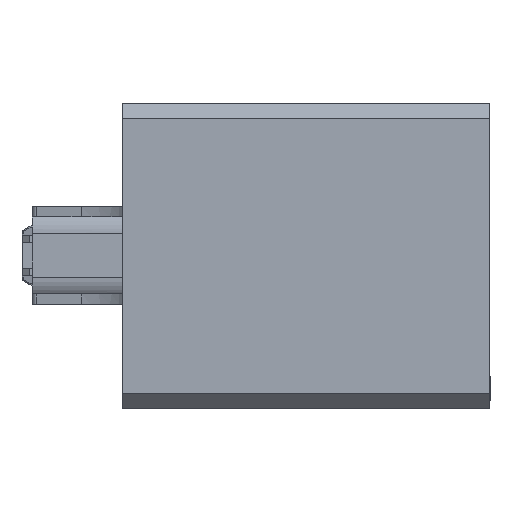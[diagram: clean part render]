
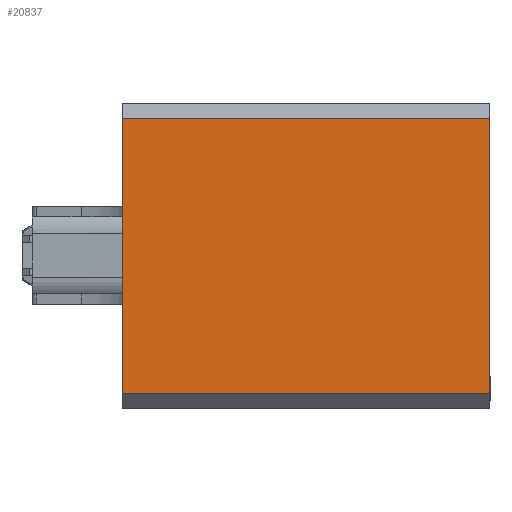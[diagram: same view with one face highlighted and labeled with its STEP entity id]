
A CAD part, front view. The second image highlights one B-rep face of the part: STEP entity #20837.
In plain terms, the highlighted planar face has unit normal (0, -1, 0).
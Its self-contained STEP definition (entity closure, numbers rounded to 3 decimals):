
#2522 = CARTESIAN_POINT ( 'NONE',  ( -36., -30., 30. ) ) ;
#2901 = EDGE_CURVE ( 'NONE', #4637, #5230, #19910, .T. ) ;
#3529 = EDGE_LOOP ( 'NONE', ( #18110, #10243, #6319, #17238 ) ) ;
#4637 = VERTEX_POINT ( 'NONE', #18553 ) ;
#5090 = VECTOR ( 'NONE', #15240, 1000. ) ;
#5211 = DIRECTION ( 'NONE',  ( 0., 0., -1. ) ) ;
#5230 = VERTEX_POINT ( 'NONE', #22351 ) ;
#6319 = ORIENTED_EDGE ( 'NONE', *, *, #12407, .F. ) ;
#6703 = LINE ( 'NONE', #7099, #20475 ) ;
#7099 = CARTESIAN_POINT ( 'NONE',  ( 36., -30., 30. ) ) ;
#8564 = LINE ( 'NONE', #16260, #12773 ) ;
#8972 = CARTESIAN_POINT ( 'NONE',  ( -36., -30., -27. ) ) ;
#9308 = LINE ( 'NONE', #2522, #5090 ) ;
#10243 = ORIENTED_EDGE ( 'NONE', *, *, #2901, .T. ) ;
#10303 = DIRECTION ( 'NONE',  ( 0., 1., 0. ) ) ;
#10610 = FACE_OUTER_BOUND ( 'NONE', #3529, .T. ) ;
#11995 = PLANE ( 'NONE',  #13773 ) ;
#12407 = EDGE_CURVE ( 'NONE', #15847, #5230, #6703, .T. ) ;
#12773 = VECTOR ( 'NONE', #19908, 1000. ) ;
#13773 = AXIS2_PLACEMENT_3D ( 'NONE', #21048, #10303, #22877 ) ;
#15240 = DIRECTION ( 'NONE',  ( 0., 0., -1. ) ) ;
#15847 = VERTEX_POINT ( 'NONE', #21967 ) ;
#16260 = CARTESIAN_POINT ( 'NONE',  ( -36., -30., 27. ) ) ;
#17238 = ORIENTED_EDGE ( 'NONE', *, *, #19958, .F. ) ;
#17928 = EDGE_CURVE ( 'NONE', #21544, #4637, #9308, .T. ) ;
#18110 = ORIENTED_EDGE ( 'NONE', *, *, #17928, .T. ) ;
#18553 = CARTESIAN_POINT ( 'NONE',  ( -36., -30., -27. ) ) ;
#19748 = DIRECTION ( 'NONE',  ( 1., 0., 0. ) ) ;
#19908 = DIRECTION ( 'NONE',  ( 1., 0., 0. ) ) ;
#19910 = LINE ( 'NONE', #8972, #21896 ) ;
#19958 = EDGE_CURVE ( 'NONE', #21544, #15847, #8564, .T. ) ;
#20475 = VECTOR ( 'NONE', #5211, 1000. ) ;
#20671 = CARTESIAN_POINT ( 'NONE',  ( -36., -30., 27. ) ) ;
#20837 = ADVANCED_FACE ( 'NONE', ( #10610 ), #11995, .F. ) ;
#21048 = CARTESIAN_POINT ( 'NONE',  ( 36., -30., 30. ) ) ;
#21544 = VERTEX_POINT ( 'NONE', #20671 ) ;
#21896 = VECTOR ( 'NONE', #19748, 1000. ) ;
#21967 = CARTESIAN_POINT ( 'NONE',  ( 36., -30., 27. ) ) ;
#22351 = CARTESIAN_POINT ( 'NONE',  ( 36., -30., -27. ) ) ;
#22877 = DIRECTION ( 'NONE',  ( 0., 0., 1. ) ) ;
